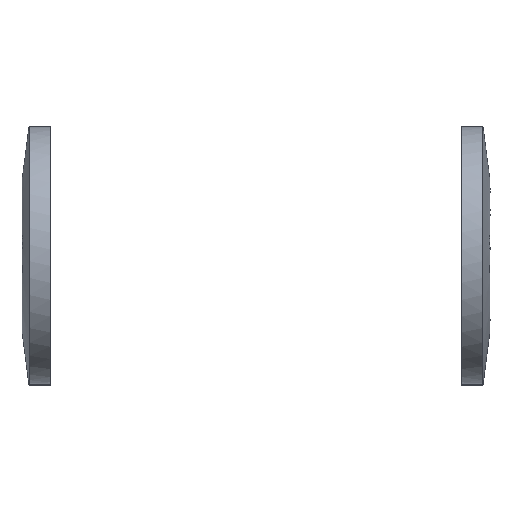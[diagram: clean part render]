
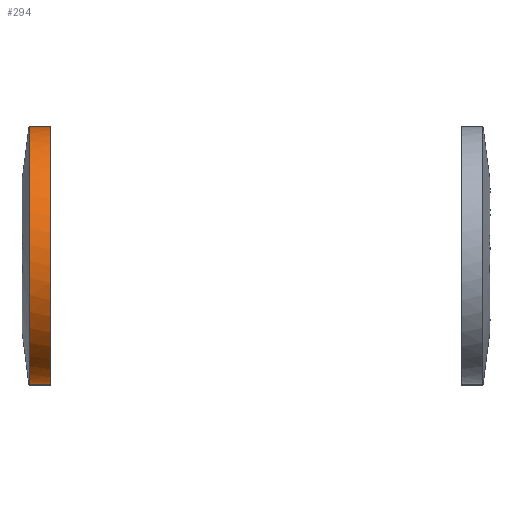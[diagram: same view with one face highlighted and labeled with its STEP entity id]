
A CAD part, top view. The second image highlights one B-rep face of the part: STEP entity #294.
In plain terms, the highlighted free-form (B-spline) face has degree [1, 2] with [2, 9] control points.
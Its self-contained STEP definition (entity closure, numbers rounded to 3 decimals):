
#294=ADVANCED_FACE('',(#318),#1134,.T.);
#318=FACE_OUTER_BOUND('',#342,.T.);
#342=EDGE_LOOP('',(#381,#382,#383,#384));
#381=ORIENTED_EDGE('',*,*,#813,.T.);
#382=ORIENTED_EDGE('',*,*,#814,.T.);
#383=ORIENTED_EDGE('',*,*,#815,.T.);
#384=ORIENTED_EDGE('',*,*,#816,.T.);
#467=(
BOUNDED_CURVE()
B_SPLINE_CURVE(2,(#1456,#1457,#1458,#1459,#1460),.UNSPECIFIED.,.F.,.F.)
B_SPLINE_CURVE_WITH_KNOTS((3,2,3),(1.,2.571,4.142),
 .UNSPECIFIED.)
CURVE()
GEOMETRIC_REPRESENTATION_ITEM()
RATIONAL_B_SPLINE_CURVE((1.,0.707,1.,0.707,1.))
REPRESENTATION_ITEM('')
);
#468=(
BOUNDED_CURVE()
B_SPLINE_CURVE(2,(#1467,#1468,#1469,#1470,#1471),.UNSPECIFIED.,.F.,.F.)
B_SPLINE_CURVE_WITH_KNOTS((3,2,3),(5.142,6.712,8.283),
 .UNSPECIFIED.)
CURVE()
GEOMETRIC_REPRESENTATION_ITEM()
RATIONAL_B_SPLINE_CURVE((1.,0.707,1.,0.707,1.))
REPRESENTATION_ITEM('')
);
#525=PCURVE('',#1134,#621);
#526=PCURVE('',#1134,#622);
#527=PCURVE('',#1134,#623);
#528=PCURVE('',#1134,#624);
#621=DEFINITIONAL_REPRESENTATION('',(#920),#2269);
#622=DEFINITIONAL_REPRESENTATION('',(#921),#2269);
#623=DEFINITIONAL_REPRESENTATION('',(#923),#2269);
#624=DEFINITIONAL_REPRESENTATION('',(#924),#2269);
#717=SURFACE_CURVE('',#919,(#525),.PCURVE_S1.);
#718=SURFACE_CURVE('',#467,(#526),.PCURVE_S1.);
#719=SURFACE_CURVE('',#922,(#527),.PCURVE_S1.);
#720=SURFACE_CURVE('',#468,(#528),.PCURVE_S1.);
#813=EDGE_CURVE('',#1053,#1054,#717,.T.);
#814=EDGE_CURVE('',#1054,#1055,#718,.T.);
#815=EDGE_CURVE('',#1055,#1056,#719,.T.);
#816=EDGE_CURVE('',#1056,#1053,#720,.T.);
#919=B_SPLINE_CURVE_WITH_KNOTS('',1,(#1452,#1453),.UNSPECIFIED.,.F.,.F.,
(2,2),(0.,1.),.UNSPECIFIED.);
#920=B_SPLINE_CURVE_WITH_KNOTS('',1,(#1454,#1455),.UNSPECIFIED.,.F.,.F.,
(2,2),(0.,1.),.UNSPECIFIED.);
#921=B_SPLINE_CURVE_WITH_KNOTS('',1,(#1461,#1462),.UNSPECIFIED.,.F.,.F.,
(2,2),(1.,4.142),.UNSPECIFIED.);
#922=B_SPLINE_CURVE_WITH_KNOTS('',1,(#1463,#1464),.UNSPECIFIED.,.F.,.F.,
(2,2),(4.142,5.142),.UNSPECIFIED.);
#923=B_SPLINE_CURVE_WITH_KNOTS('',1,(#1465,#1466),.UNSPECIFIED.,.F.,.F.,
(2,2),(4.142,5.142),.UNSPECIFIED.);
#924=B_SPLINE_CURVE_WITH_KNOTS('',1,(#1472,#1473),.UNSPECIFIED.,.F.,.F.,
(2,2),(5.142,8.283),.UNSPECIFIED.);
#1053=VERTEX_POINT('',#1448);
#1054=VERTEX_POINT('',#1449);
#1055=VERTEX_POINT('',#1450);
#1056=VERTEX_POINT('',#1451);
#1134=(
BOUNDED_SURFACE()
B_SPLINE_SURFACE(1,2,((#1430,#1431,#1432,#1433,#1434,#1435,#1436,#1437,#1438),
(#1439,#1440,#1441,#1442,#1443,#1444,#1445,#1446,#1447)),.UNSPECIFIED.,.F.,
 .F.,.F.)
B_SPLINE_SURFACE_WITH_KNOTS((2,2),(3,2,2,2,3),(0.,1.),(0.,1.571,
3.142,4.712,6.283),.UNSPECIFIED.)
GEOMETRIC_REPRESENTATION_ITEM()
RATIONAL_B_SPLINE_SURFACE(((1.,0.707,1.,0.707,1.,
0.707,1.,0.707,1.),(1.,0.707,1.,0.707,
1.,0.707,1.,0.707,1.)))
REPRESENTATION_ITEM('')
SURFACE()
);
#1430=CARTESIAN_POINT('',(-0.45,2.75,0.));
#1431=CARTESIAN_POINT('',(-0.45,2.75,-2.75));
#1432=CARTESIAN_POINT('',(-0.45,0.,-2.75));
#1433=CARTESIAN_POINT('',(-0.45,-2.75,-2.75));
#1434=CARTESIAN_POINT('',(-0.45,-2.75,0.));
#1435=CARTESIAN_POINT('',(-0.45,-2.75,2.75));
#1436=CARTESIAN_POINT('',(-0.45,0.,2.75));
#1437=CARTESIAN_POINT('',(-0.45,2.75,2.75));
#1438=CARTESIAN_POINT('',(-0.45,2.75,0.));
#1439=CARTESIAN_POINT('',(0.,2.75,0.));
#1440=CARTESIAN_POINT('',(0.,2.75,-2.75));
#1441=CARTESIAN_POINT('',(0.,0.,-2.75));
#1442=CARTESIAN_POINT('',(0.,-2.75,-2.75));
#1443=CARTESIAN_POINT('',(0.,-2.75,0.));
#1444=CARTESIAN_POINT('',(0.,-2.75,2.75));
#1445=CARTESIAN_POINT('',(0.,0.,2.75));
#1446=CARTESIAN_POINT('',(0.,2.75,2.75));
#1447=CARTESIAN_POINT('',(0.,2.75,0.));
#1448=CARTESIAN_POINT('',(0.,2.75,0.));
#1449=CARTESIAN_POINT('',(-0.45,2.75,0.));
#1450=CARTESIAN_POINT('',(-0.45,-2.75,0.));
#1451=CARTESIAN_POINT('',(0.,-2.75,0.));
#1452=CARTESIAN_POINT('',(0.,2.75,0.));
#1453=CARTESIAN_POINT('',(-0.45,2.75,0.));
#1454=CARTESIAN_POINT('',(1.,6.283));
#1455=CARTESIAN_POINT('',(0.,6.283));
#1456=CARTESIAN_POINT('',(-0.45,2.75,0.));
#1457=CARTESIAN_POINT('',(-0.45,2.75,2.75));
#1458=CARTESIAN_POINT('',(-0.45,0.,2.75));
#1459=CARTESIAN_POINT('',(-0.45,-2.75,2.75));
#1460=CARTESIAN_POINT('',(-0.45,-2.75,0.));
#1461=CARTESIAN_POINT('',(0.,6.283));
#1462=CARTESIAN_POINT('',(0.,3.142));
#1463=CARTESIAN_POINT('',(-0.45,-2.75,0.));
#1464=CARTESIAN_POINT('',(0.,-2.75,0.));
#1465=CARTESIAN_POINT('',(0.,3.142));
#1466=CARTESIAN_POINT('',(1.,3.142));
#1467=CARTESIAN_POINT('',(0.,-2.75,0.));
#1468=CARTESIAN_POINT('',(0.,-2.75,2.75));
#1469=CARTESIAN_POINT('',(0.,0.,2.75));
#1470=CARTESIAN_POINT('',(0.,2.75,2.75));
#1471=CARTESIAN_POINT('',(0.,2.75,0.));
#1472=CARTESIAN_POINT('',(1.,3.142));
#1473=CARTESIAN_POINT('',(1.,6.283));
#2269=(
GEOMETRIC_REPRESENTATION_CONTEXT(2)
PARAMETRIC_REPRESENTATION_CONTEXT()
REPRESENTATION_CONTEXT('pspace','')
);
